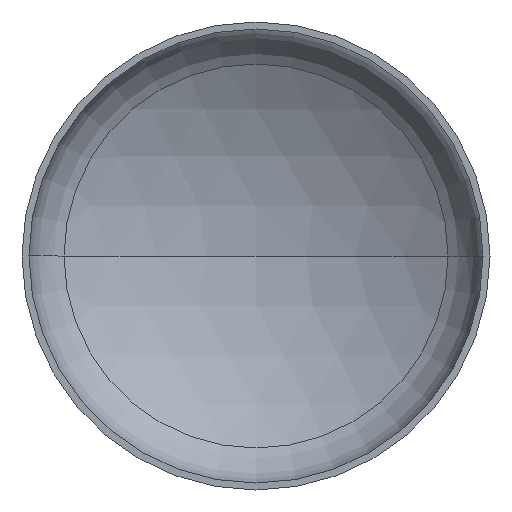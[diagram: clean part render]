
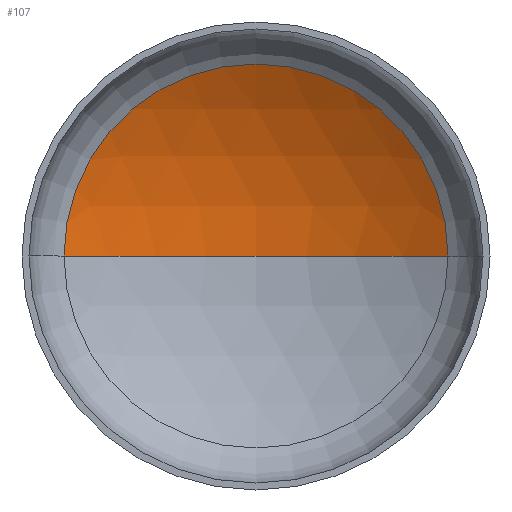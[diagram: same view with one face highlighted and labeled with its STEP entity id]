
A CAD part, front view. The second image highlights one B-rep face of the part: STEP entity #107.
In plain terms, the highlighted spherical face has radius 4400 mm.
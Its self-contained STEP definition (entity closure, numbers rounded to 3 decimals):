
#4 = AXIS2_PLACEMENT_3D ( 'NONE', #172, #385, #205 ) ;
#31 = DIRECTION ( 'NONE',  ( -1., 0., 0. ) ) ;
#32 = VERTEX_POINT ( 'NONE', #111 ) ;
#42 = CIRCLE ( 'NONE', #65, 2256.315 ) ;
#45 = ORIENTED_EDGE ( 'NONE', *, *, #59, .T. ) ;
#47 = AXIS2_PLACEMENT_3D ( 'NONE', #182, #370, #353 ) ;
#59 = EDGE_CURVE ( 'NONE', #234, #32, #364, .T. ) ;
#65 = AXIS2_PLACEMENT_3D ( 'NONE', #282, #378, #194 ) ;
#75 = CARTESIAN_POINT ( 'NONE',  ( 0., -2951.999, 0. ) ) ;
#81 = EDGE_CURVE ( 'NONE', #234, #249, #355, .T. ) ;
#96 = EDGE_LOOP ( 'NONE', ( #136, #45, #213 ) ) ;
#107 = ADVANCED_FACE ( 'NONE', ( #113 ), #276, .F. ) ;
#111 = CARTESIAN_POINT ( 'NONE',  ( 2256.315, 825.44, 0. ) ) ;
#113 = FACE_OUTER_BOUND ( 'NONE', #96, .T. ) ;
#136 = ORIENTED_EDGE ( 'NONE', *, *, #81, .F. ) ;
#138 = AXIS2_PLACEMENT_3D ( 'NONE', #75, #298, #31 ) ;
#172 = CARTESIAN_POINT ( 'NONE',  ( 0., -2951.999, 0. ) ) ;
#182 = CARTESIAN_POINT ( 'NONE',  ( 0., -2951.999, 0. ) ) ;
#194 = DIRECTION ( 'NONE',  ( 1., 0., 0. ) ) ;
#205 = DIRECTION ( 'NONE',  ( -1., 0., 0. ) ) ;
#213 = ORIENTED_EDGE ( 'NONE', *, *, #335, .T. ) ;
#217 = CARTESIAN_POINT ( 'NONE',  ( 0., 1448.001, 0. ) ) ;
#234 = VERTEX_POINT ( 'NONE', #217 ) ;
#249 = VERTEX_POINT ( 'NONE', #316 ) ;
#276 = SPHERICAL_SURFACE ( 'NONE', #138, 4400. ) ;
#282 = CARTESIAN_POINT ( 'NONE',  ( 0., 825.44, 0. ) ) ;
#298 = DIRECTION ( 'NONE',  ( 0., 0., -1. ) ) ;
#316 = CARTESIAN_POINT ( 'NONE',  ( -2256.315, 825.44, 0. ) ) ;
#335 = EDGE_CURVE ( 'NONE', #32, #249, #42, .T. ) ;
#353 = DIRECTION ( 'NONE',  ( 1., 0., 0. ) ) ;
#355 = CIRCLE ( 'NONE', #47, 4400. ) ;
#364 = CIRCLE ( 'NONE', #4, 4400. ) ;
#370 = DIRECTION ( 'NONE',  ( 0., 0., 1. ) ) ;
#378 = DIRECTION ( 'NONE',  ( 0., -1., 0. ) ) ;
#385 = DIRECTION ( 'NONE',  ( 0., 0., -1. ) ) ;
